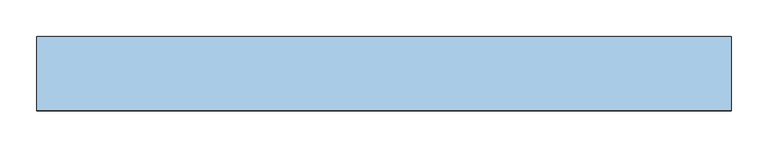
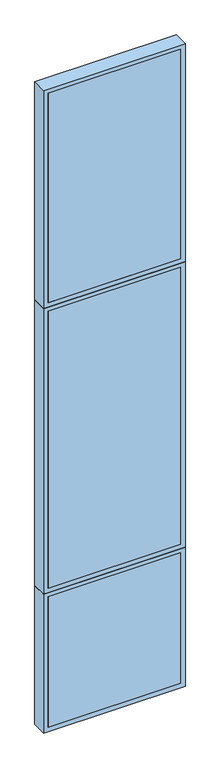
"""IFC4 building model written with IfcOpenShell, lengths in millimetres: window geometry, TRP_CP_ARC_FI_V1 : VE_VF2_94."""

from ifc_helpers import new_model, si_unit, frame, origin, place, context, project, spatial, polyline, outline, extrude, source, transform, mapped, element, save


def window_0f1a396c(model_context):
    return source(origin(), model_context, "Body", "SweptSolid", [
        extrude(outline(polyline([(440.0, -50.0), (-440.0, -50.0), (-440.0, -30.0), (440.0, -30.0), (440.0, -50.0)])), frame((0.0, 0.0, 30.0), z_axis=(0.0, 0.0, 1.0), x_axis=(1.0, 0.0, 0.0)), (0.0, 0.0, 1.0), 913.0),
        extrude(outline(polyline([(973.0, 470.0), (973.0, -470.0), (0.0, -470.0), (0.0, 470.0), (973.0, 470.0)]), holes=[polyline([(30.0, 440.0), (30.0, -440.0), (943.0, -440.0), (943.0, 440.0), (30.0, 440.0)])]), frame((0.0, -50.0, 0.0), z_axis=(0.0, 1.0, 0.0), x_axis=(0.0, 0.0, 1.0)), (0.0, 0.0, 1.0), 100.0),
        extrude(outline(polyline([(2973.0, 470.0), (2973.0, -470.0), (973.0, -470.0), (973.0, 470.0), (2973.0, 470.0)]), holes=[polyline([(1003.0, 440.0), (1003.0, -440.0), (2943.0, -440.0), (2943.0, 440.0), (1003.0, 440.0)])]), frame((0.0, -50.0, 0.0), z_axis=(0.0, 1.0, 0.0), x_axis=(0.0, 0.0, 1.0)), (0.0, 0.0, 1.0), 100.0),
        extrude(outline(polyline([(440.0, -50.0), (-440.0, -50.0), (-440.0, -30.0), (440.0, -30.0), (440.0, -50.0)])), frame((0.0, 0.0, 1003.0), z_axis=(0.0, 0.0, 1.0), x_axis=(1.0, 0.0, 0.0)), (0.0, 0.0, 1.0), 1940.0),
        extrude(outline(polyline([(4500.0, 470.0), (4500.0, -470.0), (2973.0, -470.0), (2973.0, 470.0), (4500.0, 470.0)]), holes=[polyline([(3003.0, 440.0), (3003.0, -440.0), (4470.0, -440.0), (4470.0, 440.0), (3003.0, 440.0)])]), frame((0.0, -50.0, 0.0), z_axis=(0.0, 1.0, 0.0), x_axis=(0.0, 0.0, 1.0)), (0.0, 0.0, 1.0), 100.0),
        extrude(outline(polyline([(440.0, -50.0), (-440.0, -50.0), (-440.0, -30.0), (440.0, -30.0), (440.0, -50.0)])), frame((0.0, 0.0, 3003.0), z_axis=(0.0, 0.0, 1.0), x_axis=(1.0, 0.0, 0.0)), (0.0, 0.0, 1.0), 1467.0),
    ])


if __name__ == "__main__":
    model = new_model("IFC4")
    model_context = context("Model", 3, world=origin())
    ifc_project = project(units=[si_unit("LENGTHUNIT", "METRE", prefix="MILLI")], contexts=[model_context])
    site = spatial("IfcSite", under=ifc_project)
    building = spatial("IfcBuilding", under=site)
    placement = place(None, origin())
    window_shape = window_0f1a396c(model_context)
    element("IfcWindow", 1, ObjectType="TRP_CP_ARC_FI_V1 : VE_VF2_94", at=placement, inside=building, context=model_context, shape_type="MappedRepresentation", body=[
        mapped(window_shape, transform((0.0, 0.0, 0.0), x_axis=(1.0, 0.0, 0.0), y_axis=(0.0, 1.0, 0.0), z_axis=(0.0, 0.0, 1.0))),
    ])
    save(model, "model.ifc")
